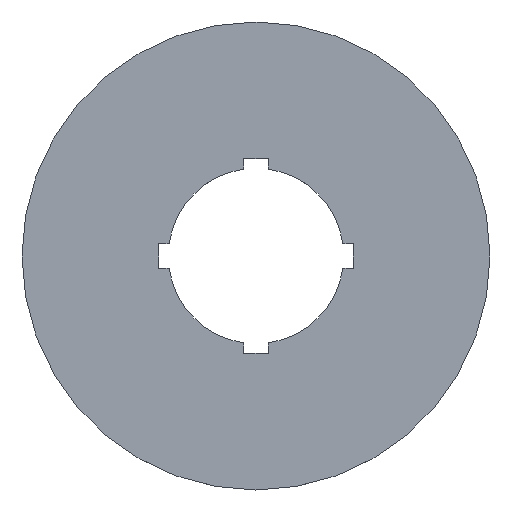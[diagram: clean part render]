
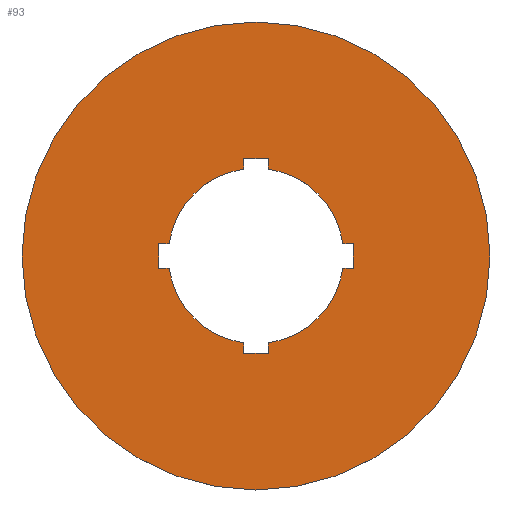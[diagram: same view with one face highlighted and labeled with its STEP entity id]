
A CAD part, top view. The second image highlights one B-rep face of the part: STEP entity #93.
In plain terms, the highlighted planar face has unit normal (0, 0, 1).
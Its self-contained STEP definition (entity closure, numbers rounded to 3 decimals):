
#93 = ADVANCED_FACE( '', ( #132, #133 ), #134, .T. );
#132 = FACE_OUTER_BOUND( '', #174, .T. );
#133 = FACE_BOUND( '', #175, .T. );
#134 = PLANE( '', #176 );
#174 = EDGE_LOOP( '', ( #306, #307 ) );
#175 = EDGE_LOOP( '', ( #308, #309, #310, #311, #312, #313, #314, #315, #316, #317, #318, #319, #320, #321, #322, #323 ) );
#176 = AXIS2_PLACEMENT_3D( '', #324, #325, #326 );
#306 = ORIENTED_EDGE( '', *, *, #400, .F. );
#307 = ORIENTED_EDGE( '', *, *, #351, .F. );
#308 = ORIENTED_EDGE( '', *, *, #352, .F. );
#309 = ORIENTED_EDGE( '', *, *, #398, .F. );
#310 = ORIENTED_EDGE( '', *, *, #395, .F. );
#311 = ORIENTED_EDGE( '', *, *, #392, .F. );
#312 = ORIENTED_EDGE( '', *, *, #389, .F. );
#313 = ORIENTED_EDGE( '', *, *, #386, .F. );
#314 = ORIENTED_EDGE( '', *, *, #383, .F. );
#315 = ORIENTED_EDGE( '', *, *, #380, .F. );
#316 = ORIENTED_EDGE( '', *, *, #377, .F. );
#317 = ORIENTED_EDGE( '', *, *, #374, .F. );
#318 = ORIENTED_EDGE( '', *, *, #371, .F. );
#319 = ORIENTED_EDGE( '', *, *, #368, .F. );
#320 = ORIENTED_EDGE( '', *, *, #365, .F. );
#321 = ORIENTED_EDGE( '', *, *, #362, .F. );
#322 = ORIENTED_EDGE( '', *, *, #359, .F. );
#323 = ORIENTED_EDGE( '', *, *, #356, .F. );
#324 = CARTESIAN_POINT( '', ( 0., 0., 0.8 ) );
#325 = DIRECTION( '', ( 0., 0., 1. ) );
#326 = DIRECTION( '', ( 1., 0., 0. ) );
#351 = EDGE_CURVE( '', #407, #403, #409, .T. );
#352 = EDGE_CURVE( '', #410, #411, #412, .T. );
#356 = EDGE_CURVE( '', #411, #418, #419, .T. );
#359 = EDGE_CURVE( '', #418, #423, #424, .T. );
#362 = EDGE_CURVE( '', #423, #428, #429, .T. );
#365 = EDGE_CURVE( '', #428, #433, #434, .T. );
#368 = EDGE_CURVE( '', #433, #438, #439, .T. );
#371 = EDGE_CURVE( '', #438, #443, #444, .T. );
#374 = EDGE_CURVE( '', #443, #448, #449, .T. );
#377 = EDGE_CURVE( '', #448, #453, #454, .T. );
#380 = EDGE_CURVE( '', #453, #458, #459, .T. );
#383 = EDGE_CURVE( '', #458, #463, #464, .T. );
#386 = EDGE_CURVE( '', #463, #468, #469, .T. );
#389 = EDGE_CURVE( '', #468, #473, #474, .T. );
#392 = EDGE_CURVE( '', #473, #478, #479, .T. );
#395 = EDGE_CURVE( '', #478, #483, #484, .T. );
#398 = EDGE_CURVE( '', #483, #410, #488, .T. );
#400 = EDGE_CURVE( '', #403, #407, #490, .T. );
#403 = VERTEX_POINT( '', #493 );
#407 = VERTEX_POINT( '', #498 );
#409 = CIRCLE( '', #501, 30. );
#410 = VERTEX_POINT( '', #502 );
#411 = VERTEX_POINT( '', #503 );
#412 = LINE( '', #504, #505 );
#418 = VERTEX_POINT( '', #514 );
#419 = CIRCLE( '', #515, 11.25 );
#423 = VERTEX_POINT( '', #520 );
#424 = LINE( '', #521, #522 );
#428 = VERTEX_POINT( '', #528 );
#429 = LINE( '', #529, #530 );
#433 = VERTEX_POINT( '', #536 );
#434 = LINE( '', #537, #538 );
#438 = VERTEX_POINT( '', #544 );
#439 = CIRCLE( '', #545, 11.25 );
#443 = VERTEX_POINT( '', #550 );
#444 = LINE( '', #551, #552 );
#448 = VERTEX_POINT( '', #558 );
#449 = LINE( '', #559, #560 );
#453 = VERTEX_POINT( '', #566 );
#454 = LINE( '', #567, #568 );
#458 = VERTEX_POINT( '', #574 );
#459 = CIRCLE( '', #575, 11.25 );
#463 = VERTEX_POINT( '', #580 );
#464 = LINE( '', #581, #582 );
#468 = VERTEX_POINT( '', #588 );
#469 = LINE( '', #589, #590 );
#473 = VERTEX_POINT( '', #596 );
#474 = LINE( '', #597, #598 );
#478 = VERTEX_POINT( '', #604 );
#479 = CIRCLE( '', #605, 11.25 );
#483 = VERTEX_POINT( '', #610 );
#484 = LINE( '', #611, #612 );
#488 = LINE( '', #618, #619 );
#490 = CIRCLE( '', #622, 30. );
#493 = CARTESIAN_POINT( '', ( 30., 0., 0.8 ) );
#498 = CARTESIAN_POINT( '', ( -30., 0., 0.8 ) );
#501 = AXIS2_PLACEMENT_3D( '', #629, #630, #631 );
#502 = CARTESIAN_POINT( '', ( -12.5, -1.6, 0.8 ) );
#503 = CARTESIAN_POINT( '', ( -11.136, -1.6, 0.8 ) );
#504 = CARTESIAN_POINT( '', ( -12.5, -1.6, 0.8 ) );
#505 = VECTOR( '', #632, 1. );
#514 = CARTESIAN_POINT( '', ( -1.6, -11.136, 0.8 ) );
#515 = AXIS2_PLACEMENT_3D( '', #636, #637, #638 );
#520 = CARTESIAN_POINT( '', ( -1.6, -12.5, 0.8 ) );
#521 = CARTESIAN_POINT( '', ( -1.6, -11.136, 0.8 ) );
#522 = VECTOR( '', #643, 1. );
#528 = CARTESIAN_POINT( '', ( 1.6, -12.5, 0.8 ) );
#529 = CARTESIAN_POINT( '', ( -1.6, -12.5, 0.8 ) );
#530 = VECTOR( '', #646, 1. );
#536 = CARTESIAN_POINT( '', ( 1.6, -11.136, 0.8 ) );
#537 = CARTESIAN_POINT( '', ( 1.6, -12.5, 0.8 ) );
#538 = VECTOR( '', #649, 1. );
#544 = CARTESIAN_POINT( '', ( 11.136, -1.6, 0.8 ) );
#545 = AXIS2_PLACEMENT_3D( '', #652, #653, #654 );
#550 = CARTESIAN_POINT( '', ( 12.5, -1.6, 0.8 ) );
#551 = CARTESIAN_POINT( '', ( 11.136, -1.6, 0.8 ) );
#552 = VECTOR( '', #659, 1. );
#558 = CARTESIAN_POINT( '', ( 12.5, 1.6, 0.8 ) );
#559 = CARTESIAN_POINT( '', ( 12.5, -1.6, 0.8 ) );
#560 = VECTOR( '', #662, 1. );
#566 = CARTESIAN_POINT( '', ( 11.136, 1.6, 0.8 ) );
#567 = CARTESIAN_POINT( '', ( 12.5, 1.6, 0.8 ) );
#568 = VECTOR( '', #665, 1. );
#574 = CARTESIAN_POINT( '', ( 1.6, 11.136, 0.8 ) );
#575 = AXIS2_PLACEMENT_3D( '', #668, #669, #670 );
#580 = CARTESIAN_POINT( '', ( 1.6, 12.5, 0.8 ) );
#581 = CARTESIAN_POINT( '', ( 1.6, 11.136, 0.8 ) );
#582 = VECTOR( '', #675, 1. );
#588 = CARTESIAN_POINT( '', ( -1.6, 12.5, 0.8 ) );
#589 = CARTESIAN_POINT( '', ( 1.6, 12.5, 0.8 ) );
#590 = VECTOR( '', #678, 1. );
#596 = CARTESIAN_POINT( '', ( -1.6, 11.136, 0.8 ) );
#597 = CARTESIAN_POINT( '', ( -1.6, 12.5, 0.8 ) );
#598 = VECTOR( '', #681, 1. );
#604 = CARTESIAN_POINT( '', ( -11.136, 1.6, 0.8 ) );
#605 = AXIS2_PLACEMENT_3D( '', #684, #685, #686 );
#610 = CARTESIAN_POINT( '', ( -12.5, 1.6, 0.8 ) );
#611 = CARTESIAN_POINT( '', ( -11.136, 1.6, 0.8 ) );
#612 = VECTOR( '', #691, 1. );
#618 = CARTESIAN_POINT( '', ( -12.5, 1.6, 0.8 ) );
#619 = VECTOR( '', #694, 1. );
#622 = AXIS2_PLACEMENT_3D( '', #696, #697, #698 );
#629 = CARTESIAN_POINT( '', ( 0., 0., 0.8 ) );
#630 = DIRECTION( '', ( 0., 0., -1. ) );
#631 = DIRECTION( '', ( 1., 0., 0. ) );
#632 = DIRECTION( '', ( 1., 0., 0. ) );
#636 = CARTESIAN_POINT( '', ( 0., 0., 0.8 ) );
#637 = DIRECTION( '', ( 0., 0., 1. ) );
#638 = DIRECTION( '', ( -0.99, -0.142, 0. ) );
#643 = DIRECTION( '', ( 0., -1., 0. ) );
#646 = DIRECTION( '', ( 1., 0., 0. ) );
#649 = DIRECTION( '', ( 0., 1., 0. ) );
#652 = CARTESIAN_POINT( '', ( 0., 0., 0.8 ) );
#653 = DIRECTION( '', ( 0., 0., 1. ) );
#654 = DIRECTION( '', ( 0.142, -0.99, 0. ) );
#659 = DIRECTION( '', ( 1., 0., 0. ) );
#662 = DIRECTION( '', ( 0., 1., 0. ) );
#665 = DIRECTION( '', ( -1., 0., 0. ) );
#668 = CARTESIAN_POINT( '', ( 0., 0., 0.8 ) );
#669 = DIRECTION( '', ( 0., 0., 1. ) );
#670 = DIRECTION( '', ( 0.99, 0.142, 0. ) );
#675 = DIRECTION( '', ( 0., 1., 0. ) );
#678 = DIRECTION( '', ( -1., 0., 0. ) );
#681 = DIRECTION( '', ( 0., -1., 0. ) );
#684 = CARTESIAN_POINT( '', ( 0., 0., 0.8 ) );
#685 = DIRECTION( '', ( 0., 0., 1. ) );
#686 = DIRECTION( '', ( -0.142, 0.99, 0. ) );
#691 = DIRECTION( '', ( -1., 0., 0. ) );
#694 = DIRECTION( '', ( 0., -1., 0. ) );
#696 = CARTESIAN_POINT( '', ( 0., 0., 0.8 ) );
#697 = DIRECTION( '', ( 0., 0., -1. ) );
#698 = DIRECTION( '', ( 1., 0., 0. ) );
